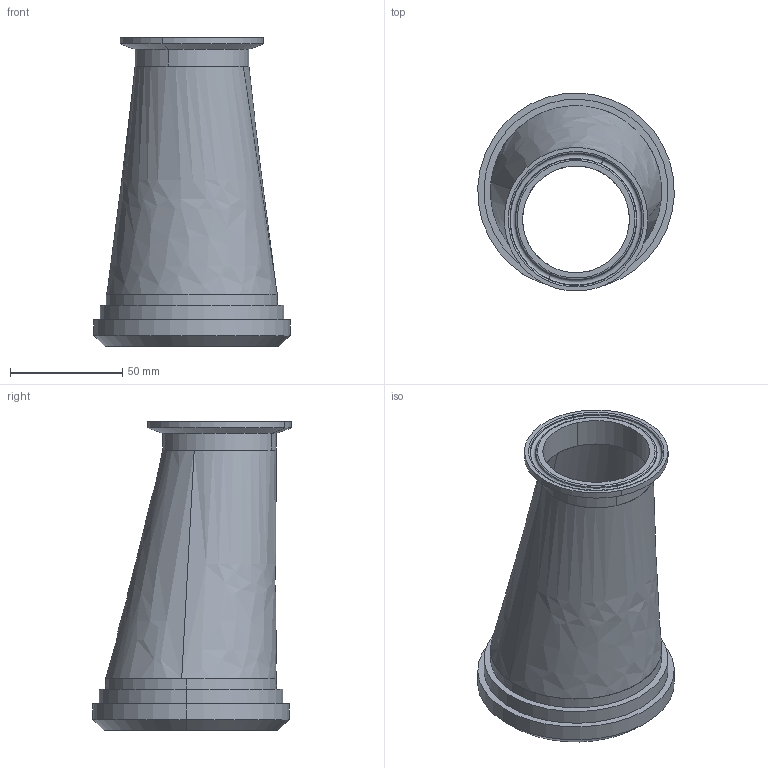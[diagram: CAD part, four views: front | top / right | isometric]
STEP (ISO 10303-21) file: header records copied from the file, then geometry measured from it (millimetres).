
FILE_DESCRIPTION (( 'STEP AP203' ), '1' );
FILE_NAME ('EG32PC 3.0X2.0.STEP', '2021-10-28T13:03:18', ( '' ), ( '' ), 'SwSTEP 2.0', 'SolidWorks 2021', '' );
FILE_SCHEMA (( 'CONFIG_CONTROL_DESIGN' ));
Length unit declared in the file: inch
Products named in the file (4): 14PR3.0; E32WW3.0X2.0; EG32PC 3.0X2.0; EG2CS2.0
Assembly tree (3 placements, depth 2):
  EG32PC 3.0X2.0
    EG2CS2.0
    E32WW3.0X2.0
    14PR3.0
Bounding box: 87.38 x 88.24 x 137.39 mm (x, y, z)
Volume: 61140.3 mm3; surface area: 61445 mm2
Topology: 3 solids, 3 shells, 41 faces, 82 edges, 50 vertices
Faces by surface type: cylinder 14, plane 9, cone 8, torus 6, bspline 4
Entity records: 1962 total; most frequent: CARTESIAN_POINT 647, DIRECTION 220, ORIENTED_EDGE 164, AXIS2_PLACEMENT_3D 99, EDGE_CURVE 82, CIRCLE 56, VERTEX_POINT 50, EDGE_LOOP 50
